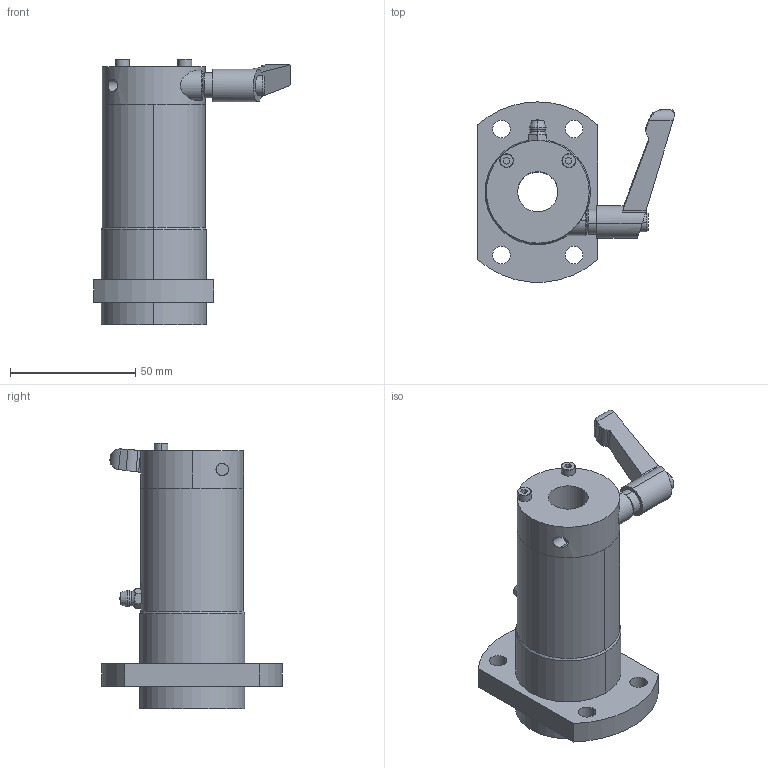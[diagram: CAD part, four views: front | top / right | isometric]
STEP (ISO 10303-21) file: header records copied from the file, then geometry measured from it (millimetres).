
FILE_DESCRIPTION (( 'STEP AP214' ), '1' );
FILE_NAME ('LFWB16-C.STEP', '2023-06-27T02:18:37', ( '' ), ( '' ), 'SwSTEP 2.0', 'SolidWorks 2019', '' );
FILE_SCHEMA (( 'AUTOMOTIVE_DESIGN' ));
Length unit declared in the file: millimetre
Products named in the file (3): LFWB16; “ÁSCK1615CO-S3.4; LFWB16-C
Assembly tree (2 placements, depth 2):
  LFWB16-C
    LFWB16
    “ÁSCK1615CO-S3.4
Bounding box: 78.5 x 71.88 x 106 mm (x, y, z)
Volume: 135777.1 mm3; surface area: 36347.1 mm2
Topology: 3 solids, 9 shells, 234 faces, 569 edges, 358 vertices
Faces by surface type: cylinder 85, plane 68, bspline 47, cone 22, torus 8, sphere 4
Entity records: 10406 total; most frequent: CARTESIAN_POINT 2266, DIRECTION 1179, ORIENTED_EDGE 1122, EDGE_CURVE 561, AXIS2_PLACEMENT_3D 491, VERTEX_POINT 354, CIRCLE 299, EDGE_LOOP 283
